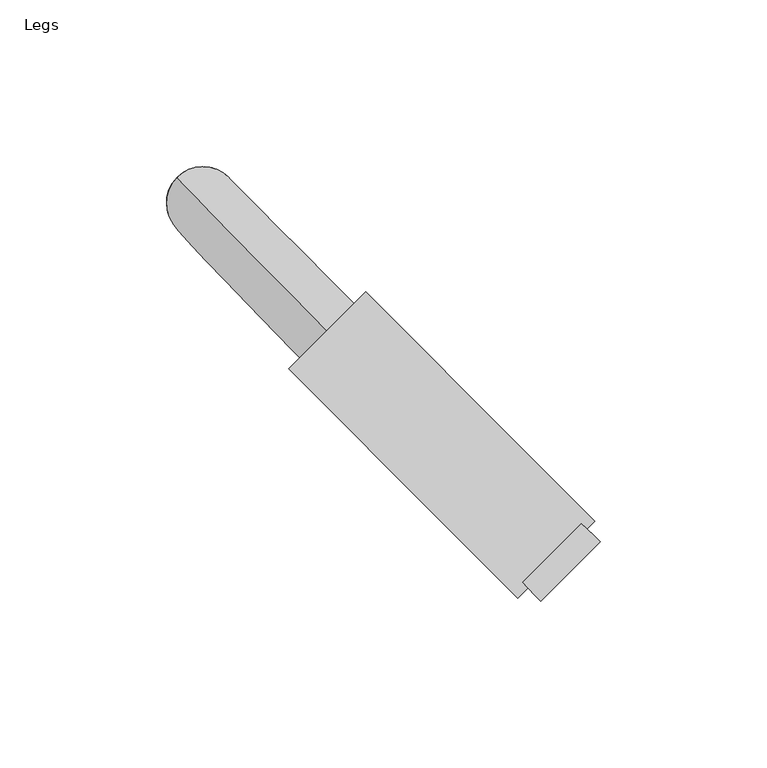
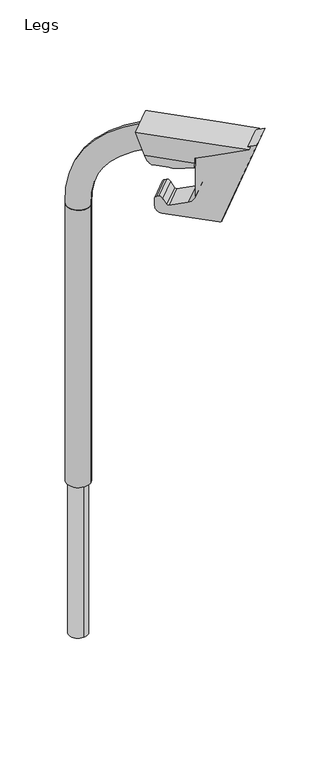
"""IFC4 building model written with IfcOpenShell, lengths in millimetres: furniture geometry, SmithSystem_AM_Numbers_Legs : Legs."""

from ifc_helpers import new_model, si_unit, frame, origin, place, context, project, spatial, polyline, circle_curve, ellipse_curve, source, transform, mapped, element, save
from ifc_brep_helpers import plane_surface, cylinder_surface, revolved_surface, spline_curve, spline_surface, advanced_brep


def legs_a3c12fd3(model_context):
    return source(origin(), model_context, "Body", "AdvancedBrep", [
        advanced_brep(
        [(0.5359233, 8.456837, 60.300003), (0.5359233, -8.9152003, 60.300003), (0.5359233, -8.9152003, 213.4888647), (0.5359233, 8.456837, 213.4888647), (8.6865367, -7.5640073, 493.3111085), (-6.7585334, 7.8810628, 493.3111085), (8.6865367, -7.5640073, 213.4888647), (-6.7585334, 7.8810628, 213.4888647)],
        [
            (0, 1, circle_curve(frame((0.5359233, -0.2291816, 60.300003), z_axis=(0.0, 0.0, -1.0), x_axis=(1.0, 0.0, 0.0)), 8.6860186)),
            (1, 0, circle_curve(frame((0.5359233, -0.2291816, 60.300003), z_axis=(0.0, 0.0, -1.0), x_axis=(-1.0, 0.0, 0.0)), 8.6860186)),
            (1, 2),
            (2, 3, circle_curve(frame((0.5359233, -0.2291816, 213.4888647), z_axis=(0.0, 0.0, -1.0), x_axis=(-1.0, 0.0, 0.0)), 8.6860186)),
            (3, 0),
            (3, 2, circle_curve(frame((0.5359233, -0.2291816, 213.4888647), z_axis=(0.0, 0.0, -1.0), x_axis=(1.0, 0.0, 0.0)), 8.6860186)),
            (4, 5, circle_curve(frame((0.9589051, 0.1534312, 493.3111085), z_axis=(0.0, 0.0, 1.0), x_axis=(0.7066399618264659, 0.707573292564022, 0.0)), 10.9213162)),
            (5, 4, circle_curve(frame((0.9690983, 0.1636244, 493.3111085), z_axis=(0.0, 0.0, 1.0), x_axis=(-0.7066399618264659, -0.707573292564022, 0.0)), 10.9213162)),
            (6, 7, circle_curve(frame((0.9690983, 0.1636244, 213.4888647), z_axis=(0.0, 0.0, -1.0), x_axis=(-0.7066399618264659, -0.707573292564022, 0.0)), 10.9213162)),
            (7, 6, circle_curve(frame((0.9589051, 0.1534312, 213.4888647), z_axis=(0.0, 0.0, -1.0), x_axis=(0.7066399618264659, 0.707573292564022, 0.0)), 10.9213162)),
            (4, 6),
            (7, 5),
        ],
        [
            plane_surface(frame((0.5359233, -0.2291816, 60.300003), z_axis=(0.0, 0.0, -1.0), x_axis=(1.0, 0.0, 0.0))),
            cylinder_surface(frame((0.5359233, -0.2291816, 213.4888647), z_axis=(0.0, 0.0, -1.0), x_axis=(-1.0, 0.0, 0.0)), 8.6860186),
            cylinder_surface(frame((0.5359233, -0.2291816, 213.4888647), z_axis=(0.0, 0.0, -1.0), x_axis=(1.0, 0.0, 0.0)), 8.6860186),
            plane_surface(frame((0.9640017, 0.1585278, 493.3111085), z_axis=(0.0, 0.0, 1.0), x_axis=(0.7066399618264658, 0.7075732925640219, 0.0))),
            plane_surface(frame((0.9640017, 0.1585278, 213.4888647), z_axis=(0.0, 0.0, -1.0), x_axis=(0.7066399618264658, 0.7075732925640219, 0.0))),
            cylinder_surface(frame((0.9589051, 0.1534312, 213.4888647), z_axis=(0.0, 0.0, 1.0), x_axis=(0.7066399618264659, 0.707573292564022, 0.0)), 10.9213162),
            cylinder_surface(frame((0.9690983, 0.1636244, 213.4888647), z_axis=(0.0, 0.0, 1.0), x_axis=(-0.7066399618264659, -0.707573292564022, 0.0)), 10.9213162),
        ],
        [
            (0, [[1, 2]]),
            (1, [[-2, 3, 4, 5]]),
            (2, [[-1, -5, 6, -3]]),
            (3, [[7, 8]]),
            (4, [[9, 10], [-4, -6]]),
            (5, [[-7, 11, -10, 12]]),
            (6, [[-8, -12, -9, -11]]),
        ],
    ),
        advanced_brep(
        [(38.6127911, -38.63374, 583.9541002), (43.9258416, -43.9467906, 562.1324748), (-6.7604571, 7.8829865, 493.3192833), (8.6855791, -7.5630496, 493.3028939)],
        [
            (0, 1, spline_curve(3, [(38.6127911, -38.63374, 583.9541002), (36.476597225, -40.769933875, 583.9541002), (34.636250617, -43.184833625, 582.774205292), (32.605986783, -47.178304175, 578.742589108), (32.416069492, -48.756875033, 575.890867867), (33.803244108, -50.142974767, 570.195707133), (35.380336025, -49.950503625, 567.352267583), (38.376851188, -48.432442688, 564.316132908), (39.480835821, -47.721529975, 563.508925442), (41.721282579, -46.012752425, 562.417096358), (42.857744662, -45.014887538, 562.1324748), (43.9258416, -43.9467906, 562.1324748)], [4, 2, 2, 2, 2, 4], [0.0, 0.25, 0.5, 0.75, 0.875, 1.0])),
            (1, 0, spline_curve(3, [(43.9258416, -43.9467906, 562.1324748), (44.993938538, -42.878693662, 562.1324748), (45.991803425, -41.742231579, 562.417096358), (47.700580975, -39.501784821, 563.508925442), (48.411493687, -38.397800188, 564.316132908), (49.929554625, -35.401285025, 567.352267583), (50.122025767, -33.824193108, 570.195707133), (48.735926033, -32.437018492, 575.890867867), (47.157355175, -32.626935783, 578.742589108), (43.163884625, -34.657199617, 582.774205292), (40.748984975, -36.497546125, 583.9541002), (38.6127911, -38.63374, 583.9541002)], [4, 2, 2, 2, 2, 4], [0.0, 0.125, 0.25, 0.5, 0.75, 1.0])),
            (2, 3, spline_curve(3, [(-6.7604571, 7.8829865, 493.3192833), (-4.738575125, 9.904868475, 493.3192833), (-1.889638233, 11.083471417, 493.3183971), (3.814763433, 11.080462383, 493.3153691), (6.670228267, 9.898850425, 493.313227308), (10.700934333, 5.867126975, 493.308949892), (11.876175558, 3.0170155, 493.306814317), (11.888751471, -1.26855275, 493.304533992), (11.601229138, -2.698809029, 493.303927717), (10.505113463, -5.340586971, 493.303107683), (9.696520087, -6.552108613, 493.3028939), (8.6855791, -7.5630496, 493.3028939)], [4, 2, 2, 2, 2, 4], [0.0, 0.25, 0.5, 0.75, 0.875, 1.0])),
            (3, 2, spline_curve(3, [(8.6855791, -7.5630496, 493.3028939), (7.674638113, -8.573990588, 493.3028939), (6.463116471, -9.382583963, 493.303107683), (3.821338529, -10.478699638, 493.303927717), (2.39108225, -10.766221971, 493.304533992), (-1.894486, -10.753646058, 493.306814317), (-4.744597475, -9.578404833, 493.308949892), (-8.776320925, -5.547698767, 493.313227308), (-9.957932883, -2.692233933, 493.3153691), (-9.960941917, 3.012167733, 493.3183971), (-8.782339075, 5.861104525, 493.3192833), (-6.7604571, 7.8829865, 493.3192833)], [4, 2, 2, 2, 2, 4], [0.0, 0.125, 0.25, 0.5, 0.75, 1.0])),
            (2, 0, spline_curve(3, [(-6.7604571, 7.8829865, 493.3192833), (-7.021327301, 8.048566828, 504.038543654), (-6.311478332, 7.243428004, 513.979085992), (-3.733983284, 4.522998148, 527.753751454), (-2.622697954, 3.36406799, 532.155948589), (0.115410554, 0.53066961, 540.572888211), (1.742233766, -1.14379863, 544.587630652), (5.516374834, -5.01322957, 552.212905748), (7.663692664, -7.208192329, 555.823438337), (12.476305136, -12.116094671, 562.621685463), (15.141599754, -14.829034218, 565.80939999), (23.902411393, -23.732780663, 574.716860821), (30.762856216, -30.688515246, 579.780924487), (38.6127911, -38.63374, 583.9541002)], [4, 2, 2, 2, 2, 2, 4], [0.0, 0.054972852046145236, 0.08245927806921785, 0.10994570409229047, 0.1374321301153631, 0.1649185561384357, 0.21989140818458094])),
            (1, 3, spline_curve(3, [(43.9258416, -43.9467906, 562.1324748), (37.170230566, -37.095889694, 558.601030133), (31.560368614, -31.390737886, 554.441470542), (24.734047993, -24.421482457, 547.551313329), (22.723353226, -22.363142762, 545.146124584), (19.167856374, -18.712356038, 540.137560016), (17.623054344, -17.11990898, 537.534184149), (14.928680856, -14.33024562, 532.089309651), (13.779109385, -13.133029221, 529.247811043), (11.824240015, -11.082869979, 523.232182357), (11.018942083, -10.229927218, 520.058052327), (9.104394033, -8.172444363, 509.856980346), (8.496489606, -7.469249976, 502.151356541), (8.6855791, -7.5630496, 493.3028939)], [4, 2, 2, 2, 2, 2, 4], [0.0, 0.05497285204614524, 0.08245927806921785, 0.10994570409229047, 0.1374321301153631, 0.1649185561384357, 0.21989140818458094])),
        ],
        [
            plane_surface(frame((41.2693164, -41.2902653, 573.0432875), z_axis=(0.6685825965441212, -0.6685825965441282, 0.32556815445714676), x_axis=(-0.707106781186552, -0.7071067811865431, 0.0))),
            plane_surface(frame((0.962561, 0.1599684, 493.3110886), z_axis=(-0.0005305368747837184, 0.0005305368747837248, -0.9999997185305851), x_axis=(-0.7071067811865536, -0.7071067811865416, 0.0))),
            spline_surface(3, 3, [[(8.6855791, -7.5630496, 493.3028939), (8.496489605, -7.469249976, 502.15135654), (9.104394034, -8.172444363, 509.856980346), (11.018942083, -10.229927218, 520.058052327), (11.824240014, -11.082869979, 523.232182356), (13.779109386, -13.133029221, 529.247811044), (14.928680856, -14.330245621, 532.089309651), (17.623054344, -17.119908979, 537.534184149), (19.167856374, -18.712356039, 540.137560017), (22.723353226, -22.363142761, 545.146124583), (24.734047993, -24.421482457, 547.551313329), (31.560368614, -31.390737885, 554.441470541), (37.170230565, -37.095889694, 558.601030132), (43.9258416, -43.9467906, 562.1324748)], [(9.696520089, -6.552108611, 493.3028939), (9.512193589, -6.453545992, 502.15135654), (10.124861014, -7.151977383, 509.856980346), (12.046553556, -9.202315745, 520.058052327), (12.854232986, -10.052877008, 523.232182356), (14.813865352, -12.098273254, 529.247811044), (15.965818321, -13.293108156, 532.089309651), (18.664954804, -16.078008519, 537.534184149), (20.212138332, -17.668074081, 540.137560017), (23.772398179, -21.314097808, 545.146124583), (25.785474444, -23.370056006, 547.551313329), (32.618939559, -30.33216694, 554.441470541), (38.233564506, -36.032555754, 558.601030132), (44.993938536, -42.878693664, 562.1324748)], [(10.505113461, -5.340586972, 493.303107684), (10.324613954, -5.236329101, 502.175916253), (10.943386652, -5.931357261, 509.910938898), (12.880832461, -7.983165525, 520.158331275), (13.69490061, -8.835361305, 523.348605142), (15.669492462, -10.886194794, 529.395496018), (16.830080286, -12.084910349, 532.252368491), (19.548012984, -14.879084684, 537.725598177), (21.105471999, -16.47467133, 540.342172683), (24.686858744, -20.132299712, 545.374039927), (26.710913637, -22.194482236, 547.78947809), (33.576608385, -29.174539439, 554.705878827), (39.212427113, -34.88661363, 558.87730042), (45.991803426, -41.742231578, 562.417096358)], [(11.601229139, -2.698809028, 493.303927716), (11.425934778, -2.582154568, 502.270450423), (12.058579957, -3.273426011, 510.116798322), (14.042467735, -5.345273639, 520.543573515), (14.876212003, -6.208330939, 523.795040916), (16.898828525, -8.289587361, 529.962196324), (18.087636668, -9.507708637, 532.877628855), (20.868492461, -12.34720433, 538.460121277), (22.460425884, -13.968450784, 541.126963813), (26.113574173, -17.680238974, 546.248457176), (28.174662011, -19.770639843, 548.702962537), (35.150636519, -26.834574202, 555.720434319), (40.857585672, -32.600149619, 559.936983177), (47.700580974, -39.501784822, 563.508925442)], [(11.888751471, -1.268552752, 493.304533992), (11.714833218, -1.145201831, 502.340388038), (12.35532129, -1.836181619, 510.269467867), (14.369787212, -3.926498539, 520.828152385), (15.216848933, -4.798806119, 524.125041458), (17.272544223, -6.90506874, 530.38122405), (18.480992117, -8.138762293, 533.339909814), (21.305852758, -11.014190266, 539.003150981), (22.922042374, -12.655625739, 541.707123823), (26.625832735, -16.409983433, 546.894977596), (28.713155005, -18.522551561, 549.378312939), (35.76662838, -25.651875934, 556.470519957), (41.523906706, -31.459645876, 560.720408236), (48.411493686, -38.397800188, 564.316132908)], [(11.876175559, 3.017015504, 493.306814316), (11.702395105, 3.160436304, 502.602410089), (12.367107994, 2.465212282, 510.843010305), (14.488860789, 0.297920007, 521.89887916), (15.383657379, -0.612132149, 525.367029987), (17.558170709, -2.817005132, 531.956542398), (18.838259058, -4.112348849, 535.079119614), (21.823230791, -7.127680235, 541.045197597), (23.528560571, -8.848265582, 543.889863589), (27.416959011, -12.767023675, 549.326128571), (29.600584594, -14.965904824, 551.918818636), (36.93828013, -22.34913984, 559.29115806), (42.879927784, -28.321298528, 563.667444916), (49.929554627, -35.401285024, 567.352267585)], [(10.700934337, 5.867126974, 493.308949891), (10.521737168, 6.023807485, 502.84792454), (11.203899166, 5.319121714, 511.381737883), (13.417638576, 3.071607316, 522.900856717), (14.354454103, 2.123529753, 526.530027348), (16.634832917, -0.17936572, 533.432045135), (17.979350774, -1.535145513, 536.708015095), (21.108566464, -4.686877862, 542.957572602), (22.894695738, -6.484268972, 545.933925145), (26.950612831, -10.562702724, 551.603126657), (29.222030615, -12.845382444, 554.298083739), (36.816498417, -20.473625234, 561.932781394), (42.926112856, -26.605763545, 566.427399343), (50.122025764, -33.824193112, 570.195707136)], [(6.670228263, 9.898850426, 493.313227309), (6.472238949, 10.074323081, 503.341975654), (7.180603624, 9.343449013, 512.454328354), (9.568067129, 6.92221052, 524.910946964), (10.584221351, 5.894801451, 528.858103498), (13.069593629, 3.386912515, 536.388654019), (14.537856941, 1.907394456, 539.968925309), (17.94992902, -1.527194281, 546.789517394), (19.892306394, -3.480826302, 550.027073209), (24.277271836, -7.888308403, 556.164683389), (26.718230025, -10.340521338, 559.062629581), (34.820054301, -18.476120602, 567.225549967), (41.253519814, -24.932095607, 571.954555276), (48.735926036, -32.437018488, 575.890867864)], [(3.814763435, 11.080462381, 493.315369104), (3.603514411, 11.261351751, 503.587496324), (4.321527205, 10.512856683, 512.995524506), (6.789212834, 7.999631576, 525.915393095), (7.843744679, 6.929858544, 530.024943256), (10.427139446, 4.316104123, 537.867999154), (11.956377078, 2.771625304, 541.602977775), (15.50485012, -0.807207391, 548.707049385), (17.524708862, -2.84230732, 552.077427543), (22.069349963, -7.417308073, 558.447974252), (24.594842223, -9.958041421, 561.449079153), (32.941674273, -18.350412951, 569.87435777), (39.536505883, -24.975726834, 574.722791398), (47.157355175, -32.626935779, 578.74258911)], [(-1.889638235, 11.083471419, 493.318397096), (-2.127647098, 11.264177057, 503.936846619), (-1.404362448, 10.483711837, 513.755310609), (1.165956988, 7.827437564, 527.338091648), (2.270103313, 6.694700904, 531.673243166), (4.984978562, 3.92252243, 539.960738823), (6.595332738, 2.283577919, 543.911610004), (10.330343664, -1.508736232, 551.419464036), (12.454376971, -3.661359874, 554.975161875), (17.218218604, -8.482504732, 561.67692353), (19.857317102, -11.150193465, 564.822051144), (28.542696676, -19.921527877, 573.620839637), (35.353925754, -26.789937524, 578.635610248), (43.163884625, -34.657199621, 582.77420529)], [(-4.738575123, 9.904868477, 493.3192833), (-4.989919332, 10.079974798, 504.038543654), (-4.270544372, 9.284361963, 513.979085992), (-1.678760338, 6.578221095, 527.753751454), (-0.562712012, 5.424053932, 532.155948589), (2.184922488, 2.600181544, 540.572888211), (3.816508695, 0.930476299, 544.587630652), (7.600175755, -2.92942865, 552.212905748), (9.75225658, -5.119628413, 555.823438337), (14.574395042, -10.018004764, 562.621685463), (17.244452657, -12.726181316, 565.80939999), (26.019553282, -21.615638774, 574.71686082), (32.889524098, -28.561847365, 579.780924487), (40.748984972, -36.497546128, 583.9541002)], [(-6.7604571, 7.8829865, 493.3192833), (-7.0213273, 8.048566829, 504.038543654), (-6.311478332, 7.243428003, 513.979085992), (-3.733983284, 4.522998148, 527.753751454), (-2.622697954, 3.36406799, 532.155948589), (0.115410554, 0.53066961, 540.572888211), (1.742233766, -1.14379863, 544.587630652), (5.516374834, -5.01322957, 552.212905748), (7.663692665, -7.208192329, 555.823438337), (12.476305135, -12.116094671, 562.621685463), (15.141599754, -14.829034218, 565.80939999), (23.902411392, -23.732780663, 574.71686082), (30.762856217, -30.688515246, 579.780924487), (38.6127911, -38.63374, 583.9541002)]], [4, 2, 2, 2, 2, 4], [4, 2, 2, 2, 2, 2, 4], [0.0, 0.125, 0.25, 0.5, 0.75, 1.0], [0.0, 0.054972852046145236, 0.08245927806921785, 0.10994570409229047, 0.1374321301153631, 0.1649185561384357, 0.21989140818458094]),
            spline_surface(3, 3, [[(-6.7604571, 7.8829865, 493.3192833), (-7.0213273, 8.048566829, 504.038543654), (-6.311478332, 7.243428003, 513.979085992), (-3.733983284, 4.522998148, 527.753751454), (-2.622697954, 3.36406799, 532.155948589), (0.115410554, 0.53066961, 540.572888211), (1.742233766, -1.14379863, 544.587630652), (5.516374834, -5.01322957, 552.212905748), (7.663692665, -7.208192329, 555.823438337), (12.476305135, -12.116094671, 562.621685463), (15.141599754, -14.829034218, 565.80939999), (23.902411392, -23.732780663, 574.71686082), (30.762856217, -30.688515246, 579.780924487), (38.6127911, -38.63374, 583.9541002)], [(-8.782339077, 5.861104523, 493.3192833), (-9.052735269, 6.017158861, 504.038543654), (-8.352412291, 5.202494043, 513.979085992), (-5.789206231, 2.467775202, 527.753751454), (-4.682683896, 1.304082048, 532.155948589), (-1.954101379, -1.538842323, 540.572888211), (-0.332041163, -3.218073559, 544.587630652), (3.432573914, -7.09703049, 552.212905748), (5.575128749, -9.296756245, 555.823438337), (10.378215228, -14.214184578, 562.621685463), (13.038746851, -16.931887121, 565.80939999), (21.785269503, -25.849922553, 574.71686082), (28.636188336, -32.815183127, 579.780924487), (36.476597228, -40.769933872, 583.9541002)], [(-9.960941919, 3.012167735, 493.318397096), (-10.236937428, 3.154886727, 503.936846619), (-9.551762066, 2.336312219, 513.755310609), (-7.0384226, -0.376942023, 527.338091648), (-5.953330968, -1.528733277, 531.673243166), (-3.276442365, -4.338898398, 539.960738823), (-1.685142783, -5.996897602, 543.911610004), (2.011881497, -9.8271984, 551.419464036), (4.11686021, -11.998876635, 554.975161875), (8.842715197, -16.85800814, 561.67692353), (11.462759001, -19.544751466, 564.822051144), (20.091158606, -28.373065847, 573.620839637), (26.864278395, -35.279584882, 578.635610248), (34.636250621, -43.184833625, 582.77420529)], [(-9.957932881, -2.692233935, 493.315369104), (-10.234112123, -2.576274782, 503.587496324), (-9.580906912, -3.389577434, 512.995524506), (-7.210616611, -6.000197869, 525.915393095), (-6.188488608, -7.102374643, 530.024943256), (-3.670024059, -9.781059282, 537.867999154), (-2.173190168, -11.357941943, 541.602977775), (1.310352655, -15.001704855, 548.707049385), (3.297807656, -17.069208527, 552.077427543), (7.777518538, -21.709139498, 558.447974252), (10.270606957, -24.282276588, 561.449079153), (18.52004368, -32.772043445, 569.87435777), (25.050067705, -39.462165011, 574.722791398), (32.605986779, -47.178304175, 578.74258911)], [(-8.776320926, -5.547698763, 493.313227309), (-9.047083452, -5.44499932, 503.341975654), (-8.411499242, -6.248653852, 512.454328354), (-6.133195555, -8.779052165, 524.910946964), (-5.153431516, -9.842851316, 528.858103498), (-2.740832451, -12.423513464, 536.388654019), (-1.308959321, -13.939421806, 539.968925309), (2.030339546, -17.446783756, 546.789517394), (3.936326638, -19.436805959, 550.027073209), (8.248518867, -23.917061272, 556.164683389), (10.653086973, -26.40566449, 559.062629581), (18.645751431, -34.650423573, 567.225549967), (25.006436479, -41.179178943, 571.954555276), (32.416069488, -48.756875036, 575.890867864)], [(-4.744597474, -9.578404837, 493.308949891), (-4.996567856, -9.49449754, 502.84792454), (-4.387171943, -10.271949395, 511.381737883), (-2.282592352, -12.628623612, 522.900856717), (-1.382159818, -13.613084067, 526.530027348), (0.825445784, -15.988752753, 533.432045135), (2.133580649, -17.380915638, 536.708015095), (5.190023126, -20.6054212, 542.957572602), (6.939769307, -22.439195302, 545.933925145), (10.922913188, -26.590402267, 551.603126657), (13.15794808, -28.90946508, 554.298083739), (20.643256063, -36.646867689, 561.932781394), (26.680104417, -42.851771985, 566.427399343), (33.803244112, -50.142974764, 570.195707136)], [(-1.894486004, -10.753646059, 493.306814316), (-2.133196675, -10.675155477, 502.602410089), (-1.533262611, -11.435158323, 510.843010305), (0.491094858, -13.699845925, 521.89887916), (1.353502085, -14.642287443, 525.367029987), (3.463085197, -16.912090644, 531.956542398), (4.710784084, -18.239823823, 535.079119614), (7.630825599, -21.320085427, 541.045197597), (9.303766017, -23.073060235, 543.889863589), (13.127234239, -27.056748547, 549.326128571), (15.27847036, -29.288018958, 551.918818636), (22.518770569, -36.768649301, 559.29115806), (28.395639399, -42.805586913, 563.667444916), (35.380336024, -49.950503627, 567.352267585)], [(2.391082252, -10.766221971, 493.304533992), (2.17244146, -10.687593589, 502.340388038), (2.768131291, -11.423371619, 510.269467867), (4.715513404, -13.580772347, 520.828152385), (5.540176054, -14.475478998, 524.125041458), (7.551148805, -16.626464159, 530.38122405), (8.737197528, -17.882556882, 533.339909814), (11.51733563, -20.802707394, 539.003150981), (13.111126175, -22.466542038, 541.707123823), (16.770193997, -26.265622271, 546.894977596), (18.835117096, -28.40058937, 549.378312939), (25.821506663, -35.596997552, 556.470519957), (31.533986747, -41.449565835, 560.720408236), (38.376851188, -48.432442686, 564.316132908)], [(3.821338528, -10.478699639, 493.303927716), (3.609394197, -10.398695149, 502.270450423), (4.205375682, -11.126630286, 510.116798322), (6.134288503, -13.25345287, 520.543573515), (6.949700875, -14.134841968, 523.795040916), (8.935667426, -16.252748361, 529.962196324), (10.106143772, -17.489201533, 532.877628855), (12.850349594, -20.365347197, 538.460121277), (14.42395112, -22.004925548, 541.126963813), (18.040449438, -25.753363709, 546.248457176), (20.083205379, -27.862096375, 548.702962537), (27.004204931, -34.981005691, 555.720434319), (32.67449049, -40.783244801, 559.936983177), (39.480835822, -47.721529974, 563.508925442)], [(6.463116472, -9.382583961, 493.303107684), (6.26356873, -9.297374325, 502.175916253), (6.863306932, -10.011436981, 509.910938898), (8.77218039, -12.091817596, 520.158331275), (9.576731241, -12.953530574, 523.348605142), (11.532274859, -15.023412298, 529.395496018), (12.683345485, -16.231645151, 532.252368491), (15.382229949, -19.04486772, 537.725598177), (16.930171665, -20.649971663, 540.342172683), (20.492510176, -24.32664828, 545.374039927), (22.507047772, -26.398348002, 547.78947809), (29.344170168, -33.406977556, 554.705878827), (34.960954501, -39.138086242, 558.87730042), (41.721282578, -46.012752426, 562.417096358)], [(7.674638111, -8.573990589, 493.3028939), (7.480785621, -8.48495396, 502.15135654), (8.083927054, -9.192911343, 509.856980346), (9.99133061, -11.257538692, 520.058052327), (10.794247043, -12.11286295, 523.232182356), (12.744353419, -14.167785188, 529.247811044), (13.891543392, -15.367383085, 532.089309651), (16.581153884, -18.16180944, 537.534184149), (18.123574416, -19.756637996, 540.137560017), (21.674308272, -23.412187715, 545.146124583), (23.682621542, -25.472908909, 547.551313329), (30.501797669, -32.44930883, 554.441470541), (36.106896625, -38.159223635, 558.601030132), (42.857744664, -45.014887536, 562.1324748)], [(8.6855791, -7.5630496, 493.3028939), (8.496489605, -7.469249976, 502.15135654), (9.104394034, -8.172444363, 509.856980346), (11.018942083, -10.229927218, 520.058052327), (11.824240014, -11.082869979, 523.232182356), (13.779109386, -13.133029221, 529.247811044), (14.928680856, -14.330245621, 532.089309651), (17.623054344, -17.119908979, 537.534184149), (19.167856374, -18.712356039, 540.137560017), (22.723353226, -22.363142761, 545.146124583), (24.734047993, -24.421482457, 547.551313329), (31.560368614, -31.390737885, 554.441470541), (37.170230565, -37.095889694, 558.601030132), (43.9258416, -43.9467906, 562.1324748)]], [4, 2, 2, 2, 2, 4], [4, 2, 2, 2, 2, 2, 4], [0.0, 0.25, 0.5, 0.75, 0.875, 1.0], [0.0, 0.054972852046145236, 0.08245927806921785, 0.10994570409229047, 0.1374321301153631, 0.1649185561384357, 0.21989140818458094]),
        ],
        [
            (0, [[1, 2]]),
            (1, [[3, 4]]),
            (2, [[-3, 5, -2, 6]]),
            (3, [[-4, -6, -1, -5]]),
        ],
    ),
        advanced_brep(
        [(26.697464, -49.634713, 585.5412941), (28.0505267, -50.9877757, 580.2839422), (32.2849638, -55.2222128, 563.8309529), (62.4150632, -85.3523122, 563.8309529), (62.4150632, -85.3523122, 568.4917897), (73.178665, -96.115914, 574.0321561), (95.5381569, -118.4754058, 585.5412941), (73.178665, -96.115914, 585.5412941), (28.0505267, -50.9877757, 585.5412941), (49.8182321, -26.5139449, 585.5412941), (51.1712948, -27.8670076, 585.5412941), (96.2994331, -72.9951459, 585.5412941), (118.658925, -95.3546378, 585.5412941), (96.2994331, -72.9951459, 574.0321561), (85.5358313, -62.2315441, 568.4917897), (85.5358313, -62.2315441, 563.8309529), (55.4057319, -32.1014447, 563.8309529), (51.1712948, -27.8670076, 580.2839422), (98.5086833, -115.5048795, 585.5412941), (96.7920749, -113.7882711, 585.5412941), (114.5880544, -95.9922916, 585.5412941), (116.3046628, -97.7089, 585.5412941), (65.3855896, -82.3817858, 568.4917897), (83.1815691, -64.5858063, 568.4917897), (62.9850197, -84.7823557, 558.7608481), (65.3855896, -82.3817858, 558.7608481), (83.1815691, -64.5858063, 558.7608481), (84.9658748, -62.8015006, 558.7608481), (65.3855896, -82.3817858, 530.3917897), (60.8652064, -77.8614026, 520.0402185), (49.1003489, -66.0965452, 513.9844741), (47.7319436, -64.7281398, 514.6888356), (45.3550931, -62.3512893, 520.5109066), (42.8502605, -59.8464567, 521.8002232), (41.551229, -58.5474252, 521.1315706), (40.5438401, -57.5400363, 519.0969409), (40.5438401, -57.5400363, 511.504631), (45.0339682, -62.0301644, 505.154631), (79.5168814, -96.5130777, 505.154631), (81.4468556, -98.4430519, 507.0657745), (102.4317149, -119.4279112, 588.6028614), (120.2276944, -101.6319317, 588.6028614), (99.2428351, -80.6470724, 507.0657745), (97.3128609, -78.7170982, 505.154631), (62.8299477, -44.2341849, 505.154631), (58.3398196, -39.7440568, 511.504631), (58.3398196, -39.7440568, 519.0969409), (59.3472085, -40.7514457, 521.1315706), (60.64624, -42.0504772, 521.8002232), (63.1510726, -44.5553098, 520.5109066), (65.5279231, -46.9321603, 514.6888356), (66.8963284, -48.3005657, 513.9844741), (78.6611859, -60.0654231, 520.0402185), (83.1815691, -64.5858063, 530.3917897)],
        [
            (0, 1),
            (1, 2),
            (2, 3),
            (3, 4),
            (4, 5),
            (5, 6),
            (6, 7),
            (7, 8),
            (8, 0),
            (9, 10),
            (10, 11),
            (11, 12),
            (12, 13),
            (13, 14),
            (14, 15),
            (15, 16),
            (16, 17),
            (17, 9),
            (9, 0),
            (6, 18),
            (18, 19),
            (19, 20),
            (20, 21),
            (21, 12),
            (4, 22),
            (22, 18),
            (21, 23),
            (23, 14),
            (3, 24, circle_curve(frame((73.9754473, -73.7919282, 563.8309529), z_axis=(0.7071067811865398, -0.7071067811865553, 0.0), x_axis=(0.7071067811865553, 0.7071067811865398, 0.0)), 16.3488519)),
            (24, 25),
            (25, 22),
            (23, 26),
            (26, 27),
            (27, 15, circle_curve(frame((73.9754473, -73.7919282, 563.8309529), z_axis=(0.7071067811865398, -0.7071067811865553, 0.0), x_axis=(0.7071067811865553, 0.7071067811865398, 0.0)), 16.3488519)),
            (24, 27, ellipse_curve(frame((83.8254437, -83.6419246, 563.8309529), z_axis=(0.2418447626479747, -0.24184476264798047, -0.9396926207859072), x_axis=(0.6644630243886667, -0.6644630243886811, 0.342020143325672)), 47.8008451, 16.3488519)),
            (26, 25),
            (16, 2, ellipse_curve(frame((43.8453479, -43.6618287, 563.8309529), z_axis=(-0.664463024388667, 0.6644630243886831, -0.3420201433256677), x_axis=(0.24184476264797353, -0.24184476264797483, -0.939692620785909)), 17.3980848, 16.3488519)),
            (28, 29, circle_curve(frame((58.491561, -75.4877572, 529.2630649), z_axis=(0.7071067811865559, 0.7071067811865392, 0.0), x_axis=(-0.7071067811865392, 0.7071067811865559, 0.0)), 9.8147482)),
            (29, 30),
            (30, 31, circle_curve(frame((48.712928, -65.7091242, 515.489806), z_axis=(0.7071067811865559, 0.7071067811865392, 0.0), x_axis=(-0.7071067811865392, 0.7071067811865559, 0.0)), 1.6019408)),
            (31, 32),
            (32, 33, circle_curve(frame((43.5594251, -60.5556214, 519.0447499), z_axis=(-0.7071067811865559, -0.7071067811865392, 0.0), x_axis=(-0.7071067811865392, 0.7071067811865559, 0.0)), 2.9323134)),
            (33, 34),
            (34, 35, circle_curve(frame((42.0748731, -59.0710694, 519.0969409), z_axis=(-0.7071067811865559, -0.7071067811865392, 0.0), x_axis=(-0.7071067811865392, 0.7071067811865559, 0.0)), 2.1652077)),
            (35, 36),
            (36, 37, circle_curve(frame((45.0339682, -62.0301644, 511.504631), z_axis=(-0.7071067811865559, -0.7071067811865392, 0.0), x_axis=(-0.7071067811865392, 0.7071067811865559, 0.0)), 6.35)),
            (37, 38),
            (38, 39, circle_curve(frame((79.5168814, -96.5130777, 508.0591933), z_axis=(-0.7071067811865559, -0.7071067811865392, 0.0), x_axis=(-0.7071067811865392, 0.7071067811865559, 0.0)), 2.9045622)),
            (39, 40),
            (40, 19),
            (25, 28),
            (41, 42),
            (42, 43, circle_curve(frame((97.3128609, -78.7170982, 508.0591933), z_axis=(0.7071067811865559, 0.7071067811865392, 0.0), x_axis=(-0.7071067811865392, 0.7071067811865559, 0.0)), 2.9045622)),
            (43, 44),
            (44, 45, circle_curve(frame((62.8299477, -44.2341849, 511.504631), z_axis=(0.7071067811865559, 0.7071067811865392, 0.0), x_axis=(-0.7071067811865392, 0.7071067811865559, 0.0)), 6.35)),
            (45, 46),
            (46, 47, circle_curve(frame((59.8708526, -41.2750899, 519.0969409), z_axis=(0.7071067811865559, 0.7071067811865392, 0.0), x_axis=(-0.7071067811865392, 0.7071067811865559, 0.0)), 2.1652077)),
            (47, 48),
            (48, 49, circle_curve(frame((61.3554046, -42.7596419, 519.0447499), z_axis=(0.7071067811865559, 0.7071067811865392, 0.0), x_axis=(-0.7071067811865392, 0.7071067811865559, 0.0)), 2.9323134)),
            (49, 50),
            (50, 51, circle_curve(frame((66.5089075, -47.9131447, 515.489806), z_axis=(-0.7071067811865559, -0.7071067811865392, 0.0), x_axis=(-0.7071067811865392, 0.7071067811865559, 0.0)), 1.6019408)),
            (51, 52),
            (52, 53, circle_curve(frame((76.2875405, -57.6917777, 529.2630649), z_axis=(-0.7071067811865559, -0.7071067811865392, 0.0), x_axis=(-0.7071067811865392, 0.7071067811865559, 0.0)), 9.8147482)),
            (53, 26),
            (20, 41),
            (53, 28),
            (40, 41),
            (39, 42),
            (38, 43),
            (37, 44),
            (36, 45),
            (35, 46),
            (34, 47),
            (33, 48),
            (32, 49),
            (31, 50),
            (30, 51),
            (29, 52),
        ],
        [
            plane_surface(frame((26.697464, -49.634713, 585.5412941), z_axis=(-0.7071067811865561, -0.707106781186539, 0.0), x_axis=(0.2418447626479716, -0.24184476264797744, -0.9396926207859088))),
            plane_surface(frame((49.8182321, -26.5139449, 585.5412941), z_axis=(0.7071067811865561, 0.707106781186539, 0.0), x_axis=(-0.2418447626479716, 0.24184476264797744, 0.9396926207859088))),
            plane_surface(frame((95.5381569, -118.4754058, 585.5412941), z_axis=(0.0, 0.0, 1.0000000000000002), x_axis=(0.7071067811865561, 0.707106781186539, 0.0))),
            plane_surface(frame((62.4150632, -85.3523122, 568.4917897), z_axis=(0.24184476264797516, -0.2418447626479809, -0.9396926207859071), x_axis=(0.7071067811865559, 0.7071067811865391, 0.0))),
            plane_surface(frame((62.4150632, -85.3523122, 558.7608481), z_axis=(0.7071067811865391, -0.7071067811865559, 0.0), x_axis=(0.7071067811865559, 0.7071067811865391, 0.0))),
            plane_surface(frame((36.9617466, -59.8989956, 545.6592206), z_axis=(0.2418447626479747, -0.24184476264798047, -0.9396926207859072), x_axis=(0.707106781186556, 0.7071067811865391, 0.0))),
            plane_surface(frame((26.697464, -49.634713, 585.5412941), z_axis=(-0.664463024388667, 0.6644630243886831, -0.3420201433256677), x_axis=(0.7071067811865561, 0.707106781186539, 0.0))),
            cylinder_surface(frame((84.7390491, -84.5555299, 563.8309529), z_axis=(0.7071067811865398, -0.7071067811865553, 0.0), x_axis=(0.7071067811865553, 0.7071067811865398, 0.0)), 16.3488519),
            plane_surface(frame((51.551486, -68.5476822, 529.2630649), z_axis=(-0.7071067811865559, -0.7071067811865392, 0.0), x_axis=(0.0, 0.0, 1.0))),
            plane_surface(frame((69.3474655, -50.7517027, 529.2630649), z_axis=(0.7071067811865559, 0.7071067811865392, 0.0), x_axis=(0.0, 0.0, -1.0))),
            plane_surface(frame((65.3855896, -82.3817858, 568.4917897), z_axis=(-0.7071067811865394, 0.7071067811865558, 0.0), x_axis=(0.7071067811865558, 0.7071067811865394, 0.0))),
            plane_surface(frame((102.4317149, -119.4279112, 588.6028614), z_axis=(-0.2534044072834, 0.2534044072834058, 0.9335804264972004), x_axis=(0.7071067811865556, 0.7071067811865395, 0.0))),
            plane_surface(frame((81.4468556, -98.4430519, 507.0657745), z_axis=(0.6644630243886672, -0.6644630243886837, -0.34202014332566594), x_axis=(0.7071067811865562, 0.7071067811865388, 0.0))),
            cylinder_surface(frame((97.3128609, -78.7170982, 508.0591933), z_axis=(-0.7071067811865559, -0.7071067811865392, 0.0), x_axis=(-0.7071067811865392, 0.7071067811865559, 0.0)), 2.9045622),
            plane_surface(frame((45.0339682, -62.0301644, 505.154631), z_axis=(0.0, 0.0, -1.0), x_axis=(0.7071067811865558, 0.7071067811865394, 0.0))),
            cylinder_surface(frame((62.8299477, -44.2341849, 511.504631), z_axis=(-0.7071067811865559, -0.7071067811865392, 0.0), x_axis=(-0.7071067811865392, 0.7071067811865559, 0.0)), 6.35),
            plane_surface(frame((40.5438401, -57.5400363, 519.0969409), z_axis=(-0.7071067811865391, 0.7071067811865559, 0.0), x_axis=(0.7071067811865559, 0.7071067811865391, 0.0))),
            cylinder_surface(frame((59.8708526, -41.2750899, 519.0969409), z_axis=(-0.7071067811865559, -0.7071067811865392, 0.0), x_axis=(-0.7071067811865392, 0.7071067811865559, 0.0)), 2.1652077),
            plane_surface(frame((42.8502605, -59.8464567, 521.8002232), z_axis=(-0.24184476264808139, 0.24184476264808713, 0.9396926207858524), x_axis=(0.7071067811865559, 0.7071067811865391, 0.0))),
            cylinder_surface(frame((61.3554046, -42.7596419, 519.0447499), z_axis=(-0.7071067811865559, -0.7071067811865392, 0.0), x_axis=(-0.7071067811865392, 0.7071067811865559, 0.0)), 2.9323134),
            plane_surface(frame((47.7319436, -64.7281398, 514.6888356), z_axis=(0.6123724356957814, -0.6123724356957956, 0.5000000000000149), x_axis=(0.7071067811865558, 0.7071067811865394, 0.0))),
            revolved_surface(polyline([(65.37616429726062, -46.78040149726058, 515.489806), (47.580184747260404, -64.57638104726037, 515.489806)]), (66.5089075, -47.9131447, 515.489806), (0.7071067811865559, 0.7071067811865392, 0.0)),
            plane_surface(frame((60.8652064, -77.8614026, 520.0402185), z_axis=(-0.2418447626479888, 0.2418447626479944, 0.9396926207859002), x_axis=(0.7071067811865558, 0.7071067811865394, 0.0))),
            revolved_surface(polyline([(69.34746549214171, -50.75170269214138, 529.2630649), (51.55148599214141, -68.54768219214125, 529.2630649)]), (76.2875405, -57.6917777, 529.2630649), (0.7071067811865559, 0.7071067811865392, 0.0)),
        ],
        [
            (0, [[1, 2, 3, 4, 5, 6, 7, 8, 9]]),
            (1, [[10, 11, 12, 13, 14, 15, 16, 17, 18]]),
            (2, [[19, -9, -8, -7, 20, 21, 22, 23, 24, -12, -11, -10]]),
            (3, [[-5, 25, 26, -20, -6]]),
            (3, [[-13, -24, 27, 28, -14]]),
            (4, [[-4, 29, 30, 31, -25]]),
            (4, [[-15, -28, 32, 33, 34]]),
            (5, [[35, -33, 36, -30]]),
            (6, [[-19, -18, -17, 37, -2, -1]]),
            (7, [[-3, -37, -16, -34, -35, -29]]),
            (8, [[38, 39, 40, 41, 42, 43, 44, 45, 46, 47, 48, 49, 50, -21, -26, -31, 51]]),
            (9, [[52, 53, 54, 55, 56, 57, 58, 59, 60, 61, 62, 63, 64, -32, -27, -23, 65]]),
            (10, [[66, -51, -36, -64]]),
            (11, [[67, -65, -22, -50]]),
            (12, [[-49, 68, -52, -67]]),
            (13, [[-48, 69, -53, -68]]),
            (14, [[-47, 70, -54, -69]]),
            (15, [[-46, 71, -55, -70]]),
            (16, [[-45, 72, -56, -71]]),
            (17, [[-44, 73, -57, -72]]),
            (18, [[-43, 74, -58, -73]]),
            (19, [[-42, 75, -59, -74]]),
            (20, [[-41, 76, -60, -75]]),
            (21, [[-40, 77, -61, -76]]),
            (22, [[-39, 78, -62, -77]]),
            (23, [[-38, -66, -63, -78]]),
        ],
    ),
    ])


if __name__ == "__main__":
    model = new_model("IFC4")
    model_context = context("Model", 3, world=origin())
    ifc_project = project(units=[si_unit("LENGTHUNIT", "METRE", prefix="MILLI")], contexts=[model_context])
    site = spatial("IfcSite", under=ifc_project)
    building = spatial("IfcBuilding", under=site)
    placement = place(None, origin())
    legs_shape = legs_a3c12fd3(model_context)
    element("IfcFurniture", 1, ObjectType="SmithSystem_AM_Numbers_Legs : Legs", at=placement, inside=building, context=model_context, shape_type="MappedRepresentation", body=[
        mapped(legs_shape, transform((0.0, 0.0, 0.0), x_axis=(1.0, 0.0, 0.0), y_axis=(0.0, 1.0, 0.0), z_axis=(0.0, 0.0, 1.0))),
    ])
    save(model, "model.ifc")
